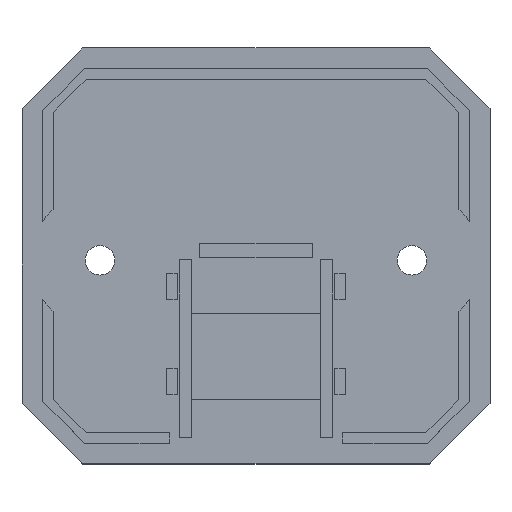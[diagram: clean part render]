
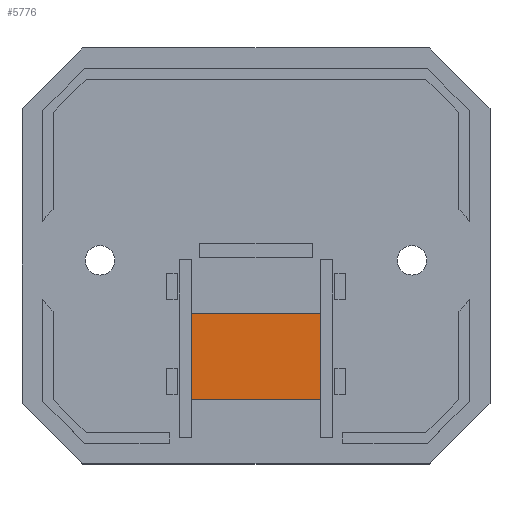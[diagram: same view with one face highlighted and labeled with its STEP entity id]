
A CAD part, top view. The second image highlights one B-rep face of the part: STEP entity #5776.
In plain terms, the highlighted planar face has unit normal (0, 0, 1).
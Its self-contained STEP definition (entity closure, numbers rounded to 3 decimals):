
#1540 = PLANE('',#1541);
#1541 = AXIS2_PLACEMENT_3D('',#1542,#1543,#1544);
#1542 = CARTESIAN_POINT('',(-7.5,-6.6,1.));
#1543 = DIRECTION('',(0.,1.,0.));
#1544 = DIRECTION('',(0.,0.,1.));
#1703 = PLANE('',#1704);
#1704 = AXIS2_PLACEMENT_3D('',#1705,#1706,#1707);
#1705 = CARTESIAN_POINT('',(-7.5,-16.6,1.));
#1706 = DIRECTION('',(0.,1.,0.));
#1707 = DIRECTION('',(0.,0.,1.));
#4185 = EDGE_CURVE('',#4186,#4188,#4190,.T.);
#4186 = VERTEX_POINT('',#4187);
#4187 = CARTESIAN_POINT('',(-7.5,-16.6,1.));
#4188 = VERTEX_POINT('',#4189);
#4189 = CARTESIAN_POINT('',(7.5,-16.6,1.));
#4190 = SURFACE_CURVE('',#4191,(#4195,#4202),.PCURVE_S1.);
#4191 = LINE('',#4192,#4193);
#4192 = CARTESIAN_POINT('',(-7.5,-16.6,1.));
#4193 = VECTOR('',#4194,1.);
#4194 = DIRECTION('',(1.,0.,0.));
#4195 = PCURVE('',#1703,#4196);
#4196 = DEFINITIONAL_REPRESENTATION('',(#4197),#4201);
#4197 = LINE('',#4198,#4199);
#4198 = CARTESIAN_POINT('',(0.,0.));
#4199 = VECTOR('',#4200,1.);
#4200 = DIRECTION('',(0.,1.));
#4201 = ( GEOMETRIC_REPRESENTATION_CONTEXT(2) 
PARAMETRIC_REPRESENTATION_CONTEXT() REPRESENTATION_CONTEXT('2D SPACE',''
  ) );
#4202 = PCURVE('',#4203,#4208);
#4203 = PLANE('',#4204);
#4204 = AXIS2_PLACEMENT_3D('',#4205,#4206,#4207);
#4205 = CARTESIAN_POINT('',(-7.5,-16.6,1.));
#4206 = DIRECTION('',(0.,0.,1.));
#4207 = DIRECTION('',(1.,0.,0.));
#4208 = DEFINITIONAL_REPRESENTATION('',(#4209),#4213);
#4209 = LINE('',#4210,#4211);
#4210 = CARTESIAN_POINT('',(0.,0.));
#4211 = VECTOR('',#4212,1.);
#4212 = DIRECTION('',(1.,0.));
#4213 = ( GEOMETRIC_REPRESENTATION_CONTEXT(2) 
PARAMETRIC_REPRESENTATION_CONTEXT() REPRESENTATION_CONTEXT('2D SPACE',''
  ) );
#4231 = PLANE('',#4232);
#4232 = AXIS2_PLACEMENT_3D('',#4233,#4234,#4235);
#4233 = CARTESIAN_POINT('',(-7.5,-16.6,1.));
#4234 = DIRECTION('',(1.,0.,0.));
#4235 = DIRECTION('',(0.,0.,1.));
#4307 = PLANE('',#4308);
#4308 = AXIS2_PLACEMENT_3D('',#4309,#4310,#4311);
#4309 = CARTESIAN_POINT('',(7.5,-16.6,1.));
#4310 = DIRECTION('',(1.,0.,0.));
#4311 = DIRECTION('',(0.,0.,1.));
#4545 = EDGE_CURVE('',#4546,#4548,#4550,.T.);
#4546 = VERTEX_POINT('',#4547);
#4547 = CARTESIAN_POINT('',(-7.5,-6.6,1.));
#4548 = VERTEX_POINT('',#4549);
#4549 = CARTESIAN_POINT('',(7.5,-6.6,1.));
#4550 = SURFACE_CURVE('',#4551,(#4555,#4562),.PCURVE_S1.);
#4551 = LINE('',#4552,#4553);
#4552 = CARTESIAN_POINT('',(-7.5,-6.6,1.));
#4553 = VECTOR('',#4554,1.);
#4554 = DIRECTION('',(1.,0.,0.));
#4555 = PCURVE('',#1540,#4556);
#4556 = DEFINITIONAL_REPRESENTATION('',(#4557),#4561);
#4557 = LINE('',#4558,#4559);
#4558 = CARTESIAN_POINT('',(0.,0.));
#4559 = VECTOR('',#4560,1.);
#4560 = DIRECTION('',(0.,1.));
#4561 = ( GEOMETRIC_REPRESENTATION_CONTEXT(2) 
PARAMETRIC_REPRESENTATION_CONTEXT() REPRESENTATION_CONTEXT('2D SPACE',''
  ) );
#4562 = PCURVE('',#4203,#4563);
#4563 = DEFINITIONAL_REPRESENTATION('',(#4564),#4568);
#4564 = LINE('',#4565,#4566);
#4565 = CARTESIAN_POINT('',(0.,10.));
#4566 = VECTOR('',#4567,1.);
#4567 = DIRECTION('',(1.,0.));
#4568 = ( GEOMETRIC_REPRESENTATION_CONTEXT(2) 
PARAMETRIC_REPRESENTATION_CONTEXT() REPRESENTATION_CONTEXT('2D SPACE',''
  ) );
#5776 = ADVANCED_FACE('',(#5777),#4203,.T.);
#5777 = FACE_BOUND('',#5778,.T.);
#5778 = EDGE_LOOP('',(#5779,#5800,#5801,#5822));
#5779 = ORIENTED_EDGE('',*,*,#5780,.F.);
#5780 = EDGE_CURVE('',#4186,#4546,#5781,.T.);
#5781 = SURFACE_CURVE('',#5782,(#5786,#5793),.PCURVE_S1.);
#5782 = LINE('',#5783,#5784);
#5783 = CARTESIAN_POINT('',(-7.5,-16.6,1.));
#5784 = VECTOR('',#5785,1.);
#5785 = DIRECTION('',(0.,1.,0.));
#5786 = PCURVE('',#4203,#5787);
#5787 = DEFINITIONAL_REPRESENTATION('',(#5788),#5792);
#5788 = LINE('',#5789,#5790);
#5789 = CARTESIAN_POINT('',(0.,0.));
#5790 = VECTOR('',#5791,1.);
#5791 = DIRECTION('',(0.,1.));
#5792 = ( GEOMETRIC_REPRESENTATION_CONTEXT(2) 
PARAMETRIC_REPRESENTATION_CONTEXT() REPRESENTATION_CONTEXT('2D SPACE',''
  ) );
#5793 = PCURVE('',#4231,#5794);
#5794 = DEFINITIONAL_REPRESENTATION('',(#5795),#5799);
#5795 = LINE('',#5796,#5797);
#5796 = CARTESIAN_POINT('',(0.,0.));
#5797 = VECTOR('',#5798,1.);
#5798 = DIRECTION('',(0.,-1.));
#5799 = ( GEOMETRIC_REPRESENTATION_CONTEXT(2) 
PARAMETRIC_REPRESENTATION_CONTEXT() REPRESENTATION_CONTEXT('2D SPACE',''
  ) );
#5800 = ORIENTED_EDGE('',*,*,#4185,.T.);
#5801 = ORIENTED_EDGE('',*,*,#5802,.T.);
#5802 = EDGE_CURVE('',#4188,#4548,#5803,.T.);
#5803 = SURFACE_CURVE('',#5804,(#5808,#5815),.PCURVE_S1.);
#5804 = LINE('',#5805,#5806);
#5805 = CARTESIAN_POINT('',(7.5,-16.6,1.));
#5806 = VECTOR('',#5807,1.);
#5807 = DIRECTION('',(0.,1.,0.));
#5808 = PCURVE('',#4203,#5809);
#5809 = DEFINITIONAL_REPRESENTATION('',(#5810),#5814);
#5810 = LINE('',#5811,#5812);
#5811 = CARTESIAN_POINT('',(15.,0.));
#5812 = VECTOR('',#5813,1.);
#5813 = DIRECTION('',(0.,1.));
#5814 = ( GEOMETRIC_REPRESENTATION_CONTEXT(2) 
PARAMETRIC_REPRESENTATION_CONTEXT() REPRESENTATION_CONTEXT('2D SPACE',''
  ) );
#5815 = PCURVE('',#4307,#5816);
#5816 = DEFINITIONAL_REPRESENTATION('',(#5817),#5821);
#5817 = LINE('',#5818,#5819);
#5818 = CARTESIAN_POINT('',(0.,0.));
#5819 = VECTOR('',#5820,1.);
#5820 = DIRECTION('',(0.,-1.));
#5821 = ( GEOMETRIC_REPRESENTATION_CONTEXT(2) 
PARAMETRIC_REPRESENTATION_CONTEXT() REPRESENTATION_CONTEXT('2D SPACE',''
  ) );
#5822 = ORIENTED_EDGE('',*,*,#4545,.F.);
